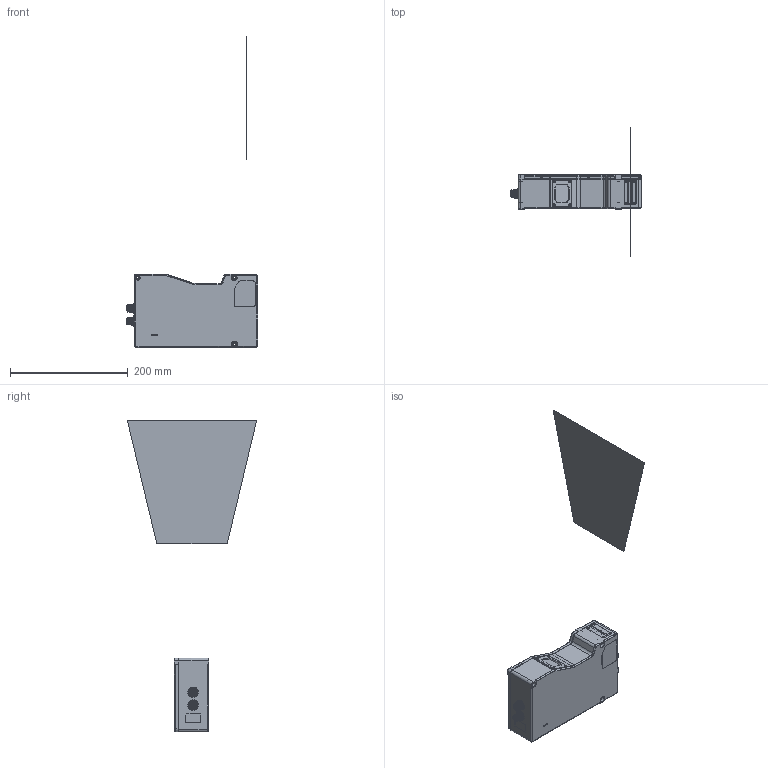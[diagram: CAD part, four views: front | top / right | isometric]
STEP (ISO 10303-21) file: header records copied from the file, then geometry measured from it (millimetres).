
FILE_DESCRIPTION((''),'2;1');
FILE_NAME('00-3300-3580-V2_0-WAIGUAN_ASM','2024-04-18T20:02:06',('liudeting'),(''),'CREO PARAMETRIC BY PTC INC, 2020044','CREO PARAMETRIC BY PTC INC, 2020044','');
FILE_SCHEMA(('CONFIG_CONTROL_DESIGN'));
Products named in the file (1): 00-3300-3580-V2_0-WAIGUAN_ASM
Bounding box: 224.1 x 220 x 530.5 mm (x, y, z)
Volume: 167755.6 mm3; surface area: 201211.5 mm2
Topology: 48 solids, 118 shells, 2102 faces, 5524 edges, 3560 vertices
Faces by surface type: cylinder 819, plane 622, cone 398, torus 118, bspline 100, sphere 40, extrusion 5
Entity records: 93558 total; most frequent: CARTESIAN_POINT 42062, DIRECTION 10885, ORIENTED_EDGE 10460, EDGE_CURVE 5408, AXIS2_PLACEMENT_3D 4336, VERTEX_POINT 3560, EDGE_LOOP 2395, CIRCLE 2338
